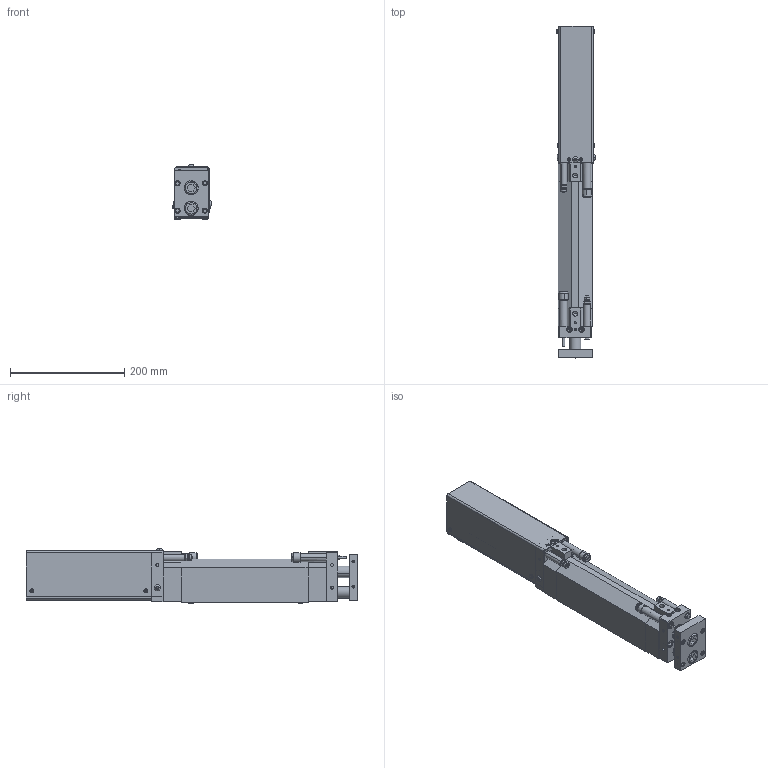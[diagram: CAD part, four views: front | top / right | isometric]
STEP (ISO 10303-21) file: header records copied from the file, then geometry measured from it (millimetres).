
FILE_DESCRIPTION((''),'2;1');
FILE_NAME('V:\CAD\Inventor-Stp\Iam-Ipt-neu\MLE 16 in\stp\01-02-000.stp','2003-10-16T15:54:28',('is'),(''),'Autodesk Inventor (R) 6.0','Autodesk Inventor (R) 6.0','');
FILE_SCHEMA(('CONFIG_CONTROL_DESIGN'));
Length unit declared in the file: millimetre
Products named in the file (3): Baugruppe3; 01-02-000-b; 01-02-000-a
Assembly tree (2 placements, depth 2):
  Baugruppe3
    01-02-000-b
    01-02-000-a
Bounding box: 66.9 x 581.5 x 95.15 mm (x, y, z)
Volume: 1357147.4 mm3; surface area: 487022.8 mm2
Topology: 52 solids, 57 shells, 1609 faces, 3834 edges, 2392 vertices
Faces by surface type: bspline 507, plane 411, cylinder 329, cone 276, torus 78, sphere 8
Entity records: 54505 total; most frequent: CARTESIAN_POINT 18016, DIRECTION 7699, ORIENTED_EDGE 7444, EDGE_CURVE 3722, AXIS2_PLACEMENT_3D 3096, VERTEX_POINT 2392, CIRCLE 1989, EDGE_LOOP 1899
